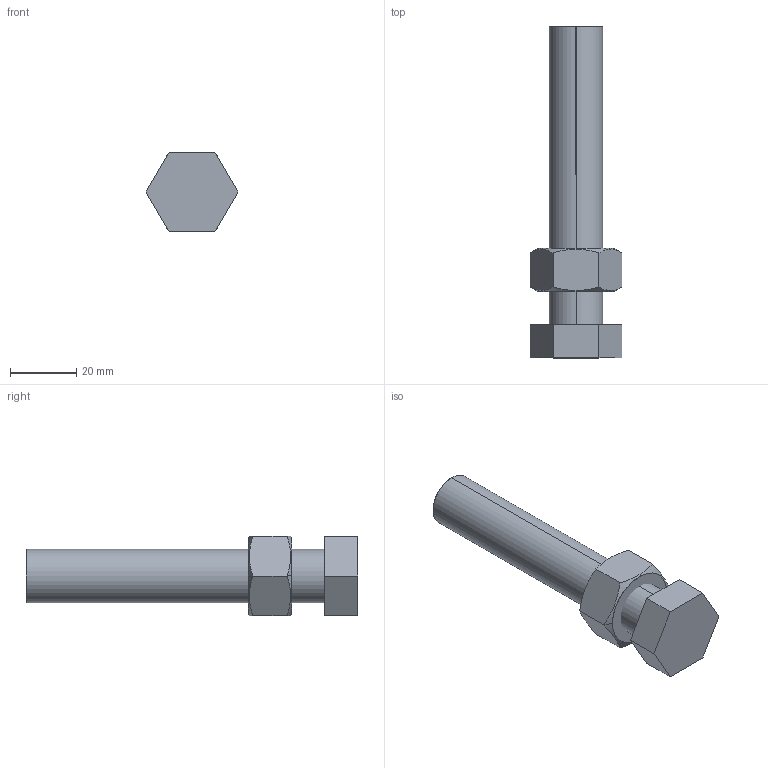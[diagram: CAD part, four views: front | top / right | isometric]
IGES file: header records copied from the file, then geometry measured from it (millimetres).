
Start section: SolidWorks IGES file using analytic representation for surfaces
Global section: file name: C:\Projetos\Ponteiras\PP\PP-M16.IGS; native system: SolidWorks 2011; preprocessor: SolidWorks 2011; author: Usuario; date: 110520.160501; units: millimetre
Bounding box: 27.71 x 100 x 24 mm (x, y, z)
Surface area: 8597.3 mm2 (no closed solid volume)
Topology: 0 solids, 0 shells, 29 faces, 484 edges, 484 vertices
Faces by surface type: bspline 17, revolution 12
